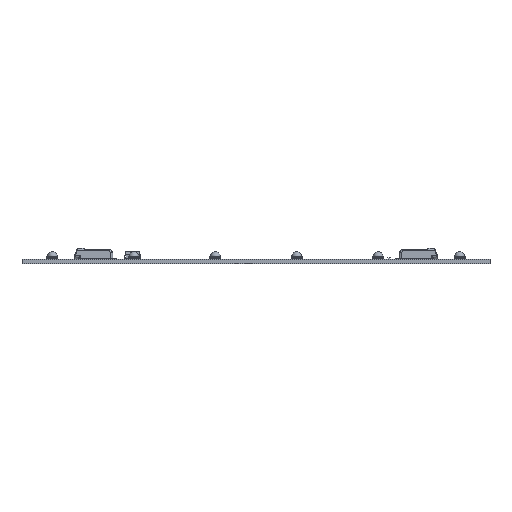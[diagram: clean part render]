
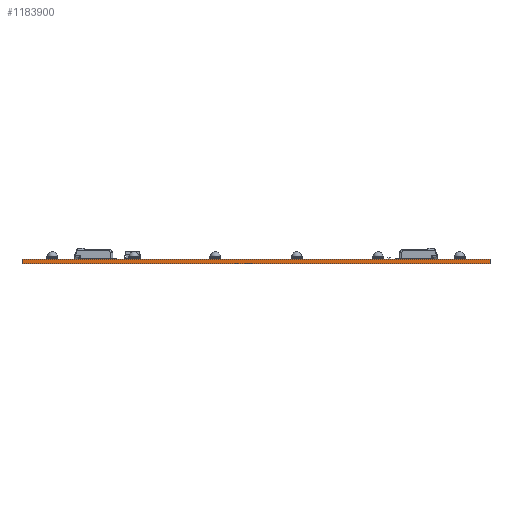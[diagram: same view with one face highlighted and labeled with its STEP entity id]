
A CAD part, front view. The second image highlights one B-rep face of the part: STEP entity #1183900.
In plain terms, the highlighted planar face has unit normal (0, -1, 0).
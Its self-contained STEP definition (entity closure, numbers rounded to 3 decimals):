
#1177380=CARTESIAN_POINT('',(146.,0.,0.));
#1177390=VERTEX_POINT('',#1177380);
#1177420=CARTESIAN_POINT('',(0.,0.,0.));
#1177430=DIRECTION('',(1.,0.,0.));
#1177440=VECTOR('',#1177430,0.039);
#1177450=LINE('',#1177420,#1177440);
#1177460=CARTESIAN_POINT('',(0.,0.,0.));
#1177470=VERTEX_POINT('',#1177460);
#1177480=EDGE_CURVE('',#1177470,#1177390,#1177450,.T.);
#1179960=CARTESIAN_POINT('',(0.,0.,-1.5));
#1179970=VERTEX_POINT('',#1179960);
#1180000=CARTESIAN_POINT('',(0.,0.,-1.5));
#1180010=DIRECTION('',(1.,0.,0.));
#1180020=VECTOR('',#1180010,0.039);
#1180030=LINE('',#1180000,#1180020);
#1180040=CARTESIAN_POINT('',(146.,0.,-1.5));
#1180050=VERTEX_POINT('',#1180040);
#1180060=EDGE_CURVE('',#1179970,#1180050,#1180030,.T.);
#1183560=CARTESIAN_POINT('',(0.,0.,0.));
#1183570=DIRECTION('',(0.,0.,-1.));
#1183580=VECTOR('',#1183570,1.);
#1183590=LINE('',#1183560,#1183580);
#1183600=EDGE_CURVE('',#1177470,#1179970,#1183590,.T.);
#1183740=CARTESIAN_POINT('',(146.,0.,0.));
#1183750=DIRECTION('',(-0.,1.,0.));
#1183760=DIRECTION('',(1.,0.,0.));
#1183770=AXIS2_PLACEMENT_3D('',#1183740,#1183750,#1183760);
#1183780=PLANE('',#1183770);
#1183790=ORIENTED_EDGE('',*,*,#1177480,.F.);
#1183800=CARTESIAN_POINT('',(146.,0.,0.));
#1183810=DIRECTION('',(0.,0.,-1.));
#1183820=VECTOR('',#1183810,1.);
#1183830=LINE('',#1183800,#1183820);
#1183840=EDGE_CURVE('',#1177390,#1180050,#1183830,.T.);
#1183850=ORIENTED_EDGE('',*,*,#1183840,.F.);
#1183860=ORIENTED_EDGE('',*,*,#1180060,.T.);
#1183870=ORIENTED_EDGE('',*,*,#1183600,.T.);
#1183880=EDGE_LOOP('',(#1183870,#1183860,#1183850,#1183790));
#1183890=FACE_OUTER_BOUND('',#1183880,.T.);
#1183900=ADVANCED_FACE('',(#1183890),#1183780,.F.);
